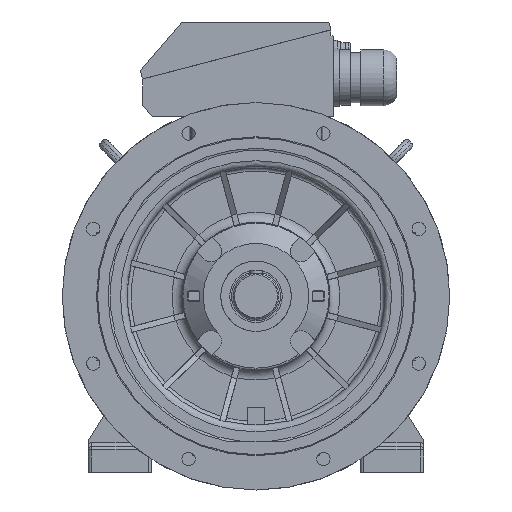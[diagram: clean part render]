
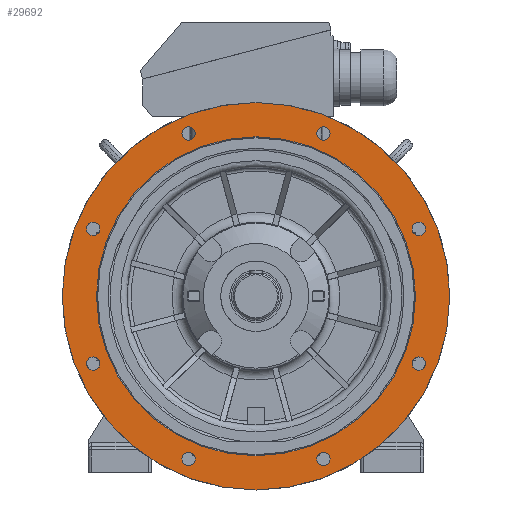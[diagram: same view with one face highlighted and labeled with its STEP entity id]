
A CAD part, front view. The second image highlights one B-rep face of the part: STEP entity #29692.
In plain terms, the highlighted planar face has unit normal (0, -1, 0).
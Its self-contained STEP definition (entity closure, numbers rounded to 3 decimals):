
#1659=CIRCLE('',#31665,9.5);
#1661=CIRCLE('',#31668,9.5);
#1662=CIRCLE('',#31670,226.4);
#1663=CIRCLE('',#31672,9.5);
#1664=CIRCLE('',#31675,275.);
#1665=CIRCLE('',#31676,9.5);
#1666=CIRCLE('',#31677,9.5);
#1667=CIRCLE('',#31678,9.5);
#1668=CIRCLE('',#31679,9.5);
#1669=CIRCLE('',#31680,9.5);
#6784=ORIENTED_EDGE('',*,*,#10600,.T.);
#6785=ORIENTED_EDGE('',*,*,#10596,.F.);
#6786=ORIENTED_EDGE('',*,*,#10597,.F.);
#6787=ORIENTED_EDGE('',*,*,#10595,.F.);
#6788=ORIENTED_EDGE('',*,*,#10593,.F.);
#6789=ORIENTED_EDGE('',*,*,#10601,.F.);
#6790=ORIENTED_EDGE('',*,*,#10602,.F.);
#6791=ORIENTED_EDGE('',*,*,#10603,.F.);
#6792=ORIENTED_EDGE('',*,*,#10604,.F.);
#6793=ORIENTED_EDGE('',*,*,#10605,.F.);
#10593=EDGE_CURVE('',#12773,#12773,#1659,.T.);
#10595=EDGE_CURVE('',#12775,#12775,#1661,.T.);
#10596=EDGE_CURVE('',#12776,#12776,#1662,.T.);
#10597=EDGE_CURVE('',#12777,#12777,#1663,.T.);
#10600=EDGE_CURVE('',#12778,#12778,#1664,.T.);
#10601=EDGE_CURVE('',#12779,#12779,#1665,.T.);
#10602=EDGE_CURVE('',#12780,#12780,#1666,.T.);
#10603=EDGE_CURVE('',#12781,#12781,#1667,.T.);
#10604=EDGE_CURVE('',#12782,#12782,#1668,.T.);
#10605=EDGE_CURVE('',#12783,#12783,#1669,.T.);
#12773=VERTEX_POINT('',#45808);
#12775=VERTEX_POINT('',#45813);
#12776=VERTEX_POINT('',#45816);
#12777=VERTEX_POINT('',#45819);
#12778=VERTEX_POINT('',#45825);
#12779=VERTEX_POINT('',#45827);
#12780=VERTEX_POINT('',#45829);
#12781=VERTEX_POINT('',#45831);
#12782=VERTEX_POINT('',#45833);
#12783=VERTEX_POINT('',#45835);
#17752=EDGE_LOOP('',(#6784));
#17753=EDGE_LOOP('',(#6785));
#17754=EDGE_LOOP('',(#6786));
#17755=EDGE_LOOP('',(#6787));
#17756=EDGE_LOOP('',(#6788));
#17757=EDGE_LOOP('',(#6789));
#17758=EDGE_LOOP('',(#6790));
#17759=EDGE_LOOP('',(#6791));
#17760=EDGE_LOOP('',(#6792));
#17761=EDGE_LOOP('',(#6793));
#19142=FACE_BOUND('',#17752,.T.);
#19143=FACE_BOUND('',#17753,.T.);
#19144=FACE_BOUND('',#17754,.T.);
#19145=FACE_BOUND('',#17755,.T.);
#19146=FACE_BOUND('',#17756,.T.);
#19147=FACE_BOUND('',#17757,.T.);
#19148=FACE_BOUND('',#17758,.T.);
#19149=FACE_BOUND('',#17759,.T.);
#19150=FACE_BOUND('',#17760,.T.);
#19151=FACE_BOUND('',#17761,.T.);
#20015=PLANE('',#31674);
#29692=ADVANCED_FACE('',(#19142,#19143,#19144,#19145,#19146,#19147,#19148,
#19149,#19150,#19151),#20015,.F.);
#31665=AXIS2_PLACEMENT_3D('',#45807,#37094,#37095);
#31668=AXIS2_PLACEMENT_3D('',#45812,#37100,#37101);
#31670=AXIS2_PLACEMENT_3D('',#45815,#37104,#37105);
#31672=AXIS2_PLACEMENT_3D('',#45818,#37108,#37109);
#31674=AXIS2_PLACEMENT_3D('',#45823,#37114,#37115);
#31675=AXIS2_PLACEMENT_3D('',#45824,#37116,#37117);
#31676=AXIS2_PLACEMENT_3D('',#45826,#37118,#37119);
#31677=AXIS2_PLACEMENT_3D('',#45828,#37120,#37121);
#31678=AXIS2_PLACEMENT_3D('',#45830,#37122,#37123);
#31679=AXIS2_PLACEMENT_3D('',#45832,#37124,#37125);
#31680=AXIS2_PLACEMENT_3D('',#45834,#37126,#37127);
#37094=DIRECTION('',(0.,-1.,0.));
#37095=DIRECTION('',(0.,0.,1.));
#37100=DIRECTION('',(0.,-1.,0.));
#37101=DIRECTION('',(0.,0.,1.));
#37104=DIRECTION('',(0.,-1.,0.));
#37105=DIRECTION('',(-1.,0.,0.));
#37108=DIRECTION('',(0.,-1.,0.));
#37109=DIRECTION('',(0.,0.,1.));
#37114=DIRECTION('',(0.,1.,0.));
#37115=DIRECTION('',(1.,0.,0.));
#37116=DIRECTION('',(0.,-1.,0.));
#37117=DIRECTION('',(-1.,0.,0.));
#37118=DIRECTION('',(0.,-1.,0.));
#37119=DIRECTION('',(0.,0.,1.));
#37120=DIRECTION('',(0.,-1.,0.));
#37121=DIRECTION('',(0.,0.,1.));
#37122=DIRECTION('',(0.,-1.,0.));
#37123=DIRECTION('',(0.,0.,1.));
#37124=DIRECTION('',(0.,-1.,0.));
#37125=DIRECTION('',(0.,0.,1.));
#37126=DIRECTION('',(0.,-1.,0.));
#37127=DIRECTION('',(0.,0.,1.));
#45807=CARTESIAN_POINT('',(95.671,-89.997,-230.97));
#45808=CARTESIAN_POINT('',(95.671,-89.997,-221.47));
#45812=CARTESIAN_POINT('',(-95.671,-89.997,-230.97));
#45813=CARTESIAN_POINT('',(-95.671,-89.997,-221.47));
#45815=CARTESIAN_POINT('',(0.,-89.997,0.));
#45816=CARTESIAN_POINT('',(-226.4,-89.997,0.));
#45818=CARTESIAN_POINT('',(-230.97,-89.997,-95.671));
#45819=CARTESIAN_POINT('',(-230.97,-89.997,-86.171));
#45823=CARTESIAN_POINT('',(226.4,-89.997,0.));
#45824=CARTESIAN_POINT('',(0.,-89.997,0.));
#45825=CARTESIAN_POINT('',(-275.,-89.997,0.));
#45826=CARTESIAN_POINT('',(230.97,-89.997,-95.671));
#45827=CARTESIAN_POINT('',(230.97,-89.997,-86.171));
#45828=CARTESIAN_POINT('',(-95.671,-89.997,230.97));
#45829=CARTESIAN_POINT('',(-95.671,-89.997,240.47));
#45830=CARTESIAN_POINT('',(95.671,-89.997,230.97));
#45831=CARTESIAN_POINT('',(95.671,-89.997,240.47));
#45832=CARTESIAN_POINT('',(230.97,-89.997,95.671));
#45833=CARTESIAN_POINT('',(230.97,-89.997,105.171));
#45834=CARTESIAN_POINT('',(-230.97,-89.997,95.671));
#45835=CARTESIAN_POINT('',(-230.97,-89.997,105.171));
